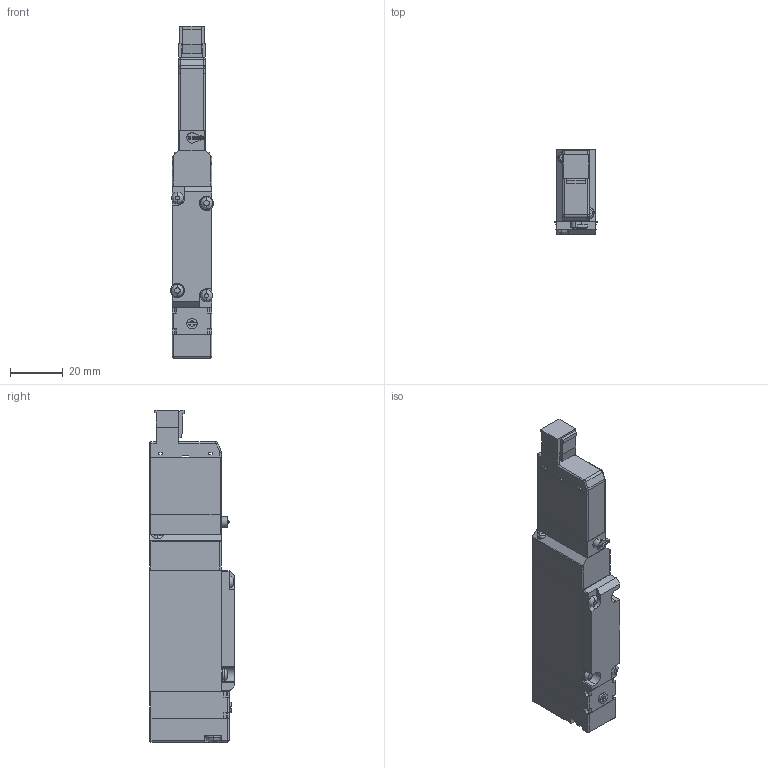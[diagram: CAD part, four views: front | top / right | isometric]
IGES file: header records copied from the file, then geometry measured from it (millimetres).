
Start section: ------------------------------------------------------------------------
Global section: file name: D:\ICADMX\tmp\trans3d_spg\CVICAD02.7120.F15T2-R-A1-PS_17142.igs; native system: spGate; preprocessor: ver12.6.6; author: Unknown; organization: Unknown; date: 210712.185038; units: millimetre
Bounding box: 16.2 x 32 x 125.5 mm (x, y, z)
Volume: 45237.1 mm3; surface area: 17589.5 mm2
Topology: 7 solids, 7 shells, 350 faces, 904 edges, 571 vertices
Faces by surface type: bspline 350
